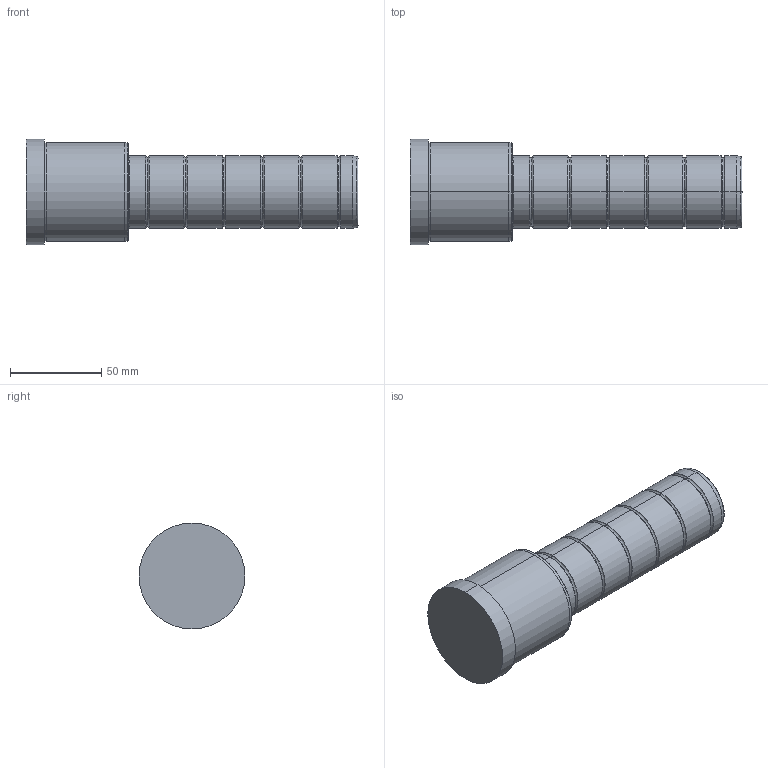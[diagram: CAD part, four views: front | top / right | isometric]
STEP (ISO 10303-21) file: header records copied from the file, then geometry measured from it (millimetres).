
FILE_DESCRIPTION( ( 'STEP AP203' ), '1' );
FILE_NAME( 'C:/Projects/D02 - 40x56x126.step', '2003-01-04T14:16:54', ( ' ' ), ( ' ' ), 'XStep 1.0', ' ', ' ' );
FILE_SCHEMA( ( 'CONFIG_CONTROL_DESIGN' ) );
Length unit declared in the file: metre
Products named in the file (1): 1
Bounding box: 182 x 58 x 58 mm (x, y, z)
Volume: 288843.7 mm3; surface area: 31337.2 mm2
Topology: 1 solids, 1 shells, 60 faces, 118 edges, 64 vertices
Faces by surface type: bspline 34, revolution 26
Entity records: 1919 total; most frequent: CARTESIAN_POINT 817, ORIENTED_EDGE 236, DIRECTION 182, EDGE_CURVE 118, AXIS2_PLACEMENT_3D 65, EDGE_LOOP 64, VERTEX_POINT 64, CIRCLE 64
